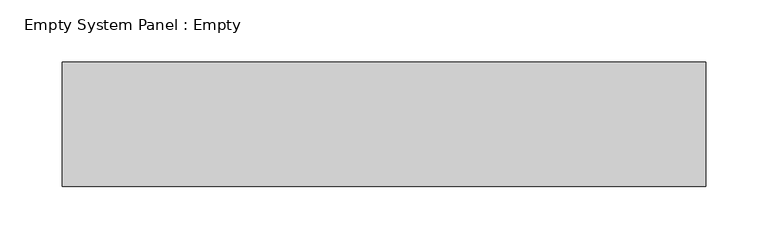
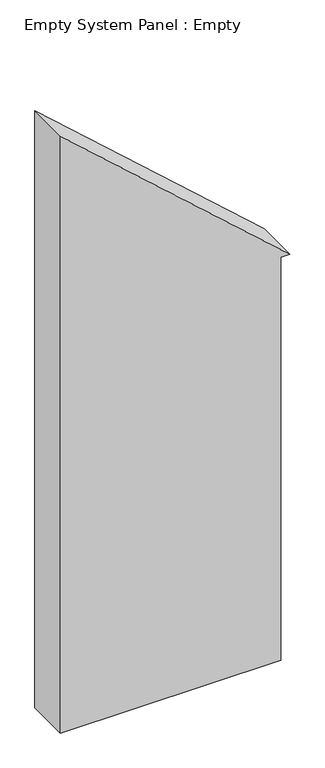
"""IFC4 building model written with IfcOpenShell, lengths in millimetres: plate geometry, Empty System Panel : Empty."""

import ifcopenshell
import ifcopenshell.guid

model = None  # the IFC model being written
_history = None  # IfcOwnerHistory: only IFC2X3 demands one
_inside = {}  # id of a spatial element -> (the spatial element, [elements in it])
_under = {}  # id of a project, library or spatial element -> (it, [spatial elements below it])
_declared = {}  # id of a project -> (the project, [libraries it declares])
_typed = {}  # id of a type object -> (the type object, [elements of that type])
_made_of = {}  # id of a material, layer set ... -> (it, [elements and type objects made of it])


def new_model(schema):
    """Start an empty IFC model of exactly this schema.

    Asked for "IFC4X3", IfcOpenShell would pick the latest addendum, in which some entities
    have other attributes; the version numbers below select the first issue.
    IFC2X3 requires an IfcOwnerHistory on every rooted entity: one is made here for all.
    """
    global model, _history
    if schema == "IFC4X3":
        model = ifcopenshell.file(schema_version=(4, 3, 0, 0))
    else:
        model = ifcopenshell.file(schema=schema)
    _inside.clear()
    _under.clear()
    _declared.clear()
    _typed.clear()
    _made_of.clear()
    _history = None
    if model.schema == "IFC2X3":
        org = make("IfcOrganization", Name="unknown")
        user = make(
            "IfcPersonAndOrganization",
            ThePerson=make("IfcPerson", FamilyName="unknown"),
            TheOrganization=org,
        )
        app = make(
            "IfcApplication",
            ApplicationDeveloper=org,
            Version="unknown",
            ApplicationFullName="unknown",
            ApplicationIdentifier="unknown",
        )
        _history = make(
            "IfcOwnerHistory",
            OwningUser=user,
            OwningApplication=app,
            ChangeAction="ADDED",
            CreationDate=0,
        )
    return model


def make(cls, **values):
    """One entity of the class cls with the attributes given. An attribute that is None is left unset."""
    return model.create_entity(
        cls, **{name: value for name, value in values.items() if value is not None}
    )


def rooted(cls, **values):
    """An entity with a GlobalId (a new one), such as an element, a storey or a relation."""
    return make(cls, GlobalId=ifcopenshell.guid.new(), OwnerHistory=_history, **values)


def si_unit(unit_type, name, prefix=None):
    """IfcSIUnit, for example si_unit("LENGTHUNIT", "METRE", prefix="MILLI")."""
    return make("IfcSIUnit", UnitType=unit_type, Prefix=prefix, Name=name)


def assignment(units):
    """IfcUnitAssignment: the units of a project."""
    return None if units is None else make("IfcUnitAssignment", Units=units)


def point(xyz):
    """IfcCartesianPoint."""
    return None if xyz is None else make("IfcCartesianPoint", Coordinates=xyz)


def direction(xyz):
    """IfcDirection."""
    return None if xyz is None else make("IfcDirection", DirectionRatios=xyz)


def frame(location, z_axis=None, x_axis=None):
    """IfcAxis2Placement3D, a coordinate frame: its origin and axes. An axis left out is left unset."""
    return make(
        "IfcAxis2Placement3D",
        Location=point(location),
        Axis=direction(z_axis),
        RefDirection=direction(x_axis),
    )


def origin():
    """The frame at (0, 0, 0) with its axes left unset."""
    return frame((0.0, 0.0, 0.0))


def place(relative_to, where):
    """IfcLocalPlacement: puts the frame where relative to a parent placement (None: the world)."""
    return make(
        "IfcLocalPlacement", PlacementRelTo=relative_to, RelativePlacement=where
    )


def context(
    kind, dimensions, precision=None, world=None, true_north=None, identifier=None
):
    """IfcGeometricRepresentationContext, for example the 3D "Model" context."""
    return make(
        "IfcGeometricRepresentationContext",
        ContextIdentifier=identifier,
        ContextType=kind,
        CoordinateSpaceDimension=dimensions,
        Precision=precision,
        WorldCoordinateSystem=world,
        TrueNorth=true_north,
    )


def project(units=None, contexts=None):
    """IfcProject with its units and contexts."""
    return rooted(
        "IfcProject",
        Name="project",
        RepresentationContexts=contexts,
        UnitsInContext=assignment(units),
    )


def spatial(cls, under=None, at=None, **own):
    """A site, building, storey or space (cls), placed at a placement, below another one or the project."""
    s = rooted(cls, ObjectPlacement=at, **own)
    if under is not None:
        _under.setdefault(under.id(), (under, []))[1].append(s)
    return s


def polyline(points):
    """IfcPolyline through the points."""
    return make("IfcPolyline", Points=[point(p) for p in points])


def outline(outer, holes=None, kind="AREA"):
    """IfcArbitraryClosedProfileDef: a profile drawn as a closed curve; with holes, ...WithVoids."""
    if holes is None:
        return make("IfcArbitraryClosedProfileDef", ProfileType=kind, OuterCurve=outer)
    return make(
        "IfcArbitraryProfileDefWithVoids",
        ProfileType=kind,
        OuterCurve=outer,
        InnerCurves=holes,
    )


def extrude(swept, where, along, depth):
    """IfcExtrudedAreaSolid: the profile swept, set in the frame where, extruded along a direction by depth."""
    return make(
        "IfcExtrudedAreaSolid",
        SweptArea=swept,
        Position=where,
        ExtrudedDirection=direction(along),
        Depth=depth,
    )


def shape(context_of_items, identifier, shape_type, items):
    """IfcShapeRepresentation: the items that make up one representation, for example the "Body"."""
    return make(
        "IfcShapeRepresentation",
        ContextOfItems=context_of_items,
        RepresentationIdentifier=identifier,
        RepresentationType=shape_type,
        Items=items,
    )


def source(mapping_origin, context_of_items, identifier, shape_type, items):
    """IfcRepresentationMap: a shape defined once, which mapped items show again and again."""
    return make(
        "IfcRepresentationMap",
        MappingOrigin=mapping_origin,
        MappedRepresentation=shape(context_of_items, identifier, shape_type, items),
    )


def transform(
    local_origin,
    x_axis=None,
    y_axis=None,
    z_axis=None,
    scale=None,
    scale2=None,
    scale3=None,
    uniform=True,
):
    """IfcCartesianTransformationOperator3D, or its non-uniform kind. x_axis, y_axis, z_axis: its Axis1, 2, 3."""
    if uniform:
        return make(
            "IfcCartesianTransformationOperator3D",
            Axis1=direction(x_axis),
            Axis2=direction(y_axis),
            LocalOrigin=point(local_origin),
            Scale=scale,
            Axis3=direction(z_axis),
        )
    return make(
        "IfcCartesianTransformationOperator3DnonUniform",
        Axis1=direction(x_axis),
        Axis2=direction(y_axis),
        LocalOrigin=point(local_origin),
        Scale=scale,
        Axis3=direction(z_axis),
        Scale2=scale2,
        Scale3=scale3,
    )


def mapped(mapping_source, mapping_target):
    """IfcMappedItem: shows the shape of a source again, moved by a transform."""
    return make(
        "IfcMappedItem", MappingSource=mapping_source, MappingTarget=mapping_target
    )


def made_of(thing, what):
    """Note that an element or type object is made of a material, layer set ...; save() writes the relation."""
    if what is not None:
        _made_of.setdefault(what.id(), (what, []))[1].append(thing)
    return thing


def element(
    cls,
    number,
    at=None,
    inside=None,
    cuts=None,
    type_object=None,
    material=None,
    context=None,
    identifier="Body",
    shape_type=None,
    held_by="IfcProductDefinitionShape",
    body=None,
    shapes=None,
    **own,
):
    """One element of the class cls, such as IfcWall. Its Tag is "e" and its number.

    at: its placement. inside: the storey or other place that contains it. cuts: it is an
    opening in that element (IfcRelVoidsElement). A single representation is given by context,
    identifier, shape_type and body (its items); several are given by shapes. held_by: the class
    of the entity that holds the representations. save() writes the other relations.
    """
    e = rooted(cls, Tag="e%d" % number, ObjectPlacement=at, **own)
    if body is not None:
        shapes = [shape(context, identifier, shape_type, body)]
    if shapes is not None:
        e.Representation = make(held_by, Representations=shapes)
    if inside is not None:
        _inside.setdefault(inside.id(), (inside, []))[1].append(e)
    if cuts is not None:
        rooted(
            "IfcRelVoidsElement", RelatingBuildingElement=cuts, RelatedOpeningElement=e
        )
    if type_object is not None:
        _typed.setdefault(type_object.id(), (type_object, []))[1].append(e)
    return made_of(e, material)


def aggregate(whole, parts):
    """IfcRelAggregates: a whole, such as a stair, and the parts it consists of."""
    return rooted("IfcRelAggregates", RelatingObject=whole, RelatedObjects=parts)


def save(model, path):
    """Write the relations noted so far, then the file.

    IfcRelAggregates (storeys below a building ...), IfcRelContainedInSpatialStructure (elements
    in a storey), IfcRelDefinesByType, IfcRelAssociatesMaterial and IfcRelDeclares: one each for
    every whole, place, type object, material and project.
    """
    for whole, parts in _under.values():
        aggregate(whole, parts)
    for where, things in _inside.values():
        rooted(
            "IfcRelContainedInSpatialStructure",
            RelatedElements=things,
            RelatingStructure=where,
        )
    for kind, things in _typed.values():
        rooted("IfcRelDefinesByType", RelatedObjects=things, RelatingType=kind)
    for what, things in _made_of.values():
        rooted("IfcRelAssociatesMaterial", RelatedObjects=things, RelatingMaterial=what)
    for by, libraries in _declared.values():
        rooted("IfcRelDeclares", RelatingContext=by, RelatedDefinitions=libraries)
    model.write(path)


def empty_system_panel_empty_1b0bc5c6(model_context):
    return source(origin(), model_context, "Body", "SweptSolid", [
        extrude(outline(polyline([(0.0, -258.7446429), (0.0, 238.7446429), (961.5856385, 238.7446429), (961.5856385, 258.7446429), (1424.4881356, -258.7446429), (0.0, -258.7446429)])), frame((0.0, -50.0, 0.0), z_axis=(0.0, 1.0, 0.0), x_axis=(0.0, 0.0, 1.0)), (0.0, 0.0, 1.0), 100.0),
    ])


if __name__ == "__main__":
    model = new_model("IFC4")
    model_context = context("Model", 3, world=origin())
    ifc_project = project(units=[si_unit("LENGTHUNIT", "METRE", prefix="MILLI")], contexts=[model_context])
    site = spatial("IfcSite", under=ifc_project)
    building = spatial("IfcBuilding", under=site)
    placement = place(None, origin())
    empty_system_panel_empty_shape = empty_system_panel_empty_1b0bc5c6(model_context)
    element("IfcPlate", 1, ObjectType="Empty System Panel : Empty", at=placement, inside=building, context=model_context, shape_type="MappedRepresentation", body=[
        mapped(empty_system_panel_empty_shape, transform((0.0, 0.0, 0.0), x_axis=(1.0, 0.0, 0.0), y_axis=(0.0, 1.0, 0.0), z_axis=(0.0, 0.0, 1.0))),
    ])
    save(model, "model.ifc")
